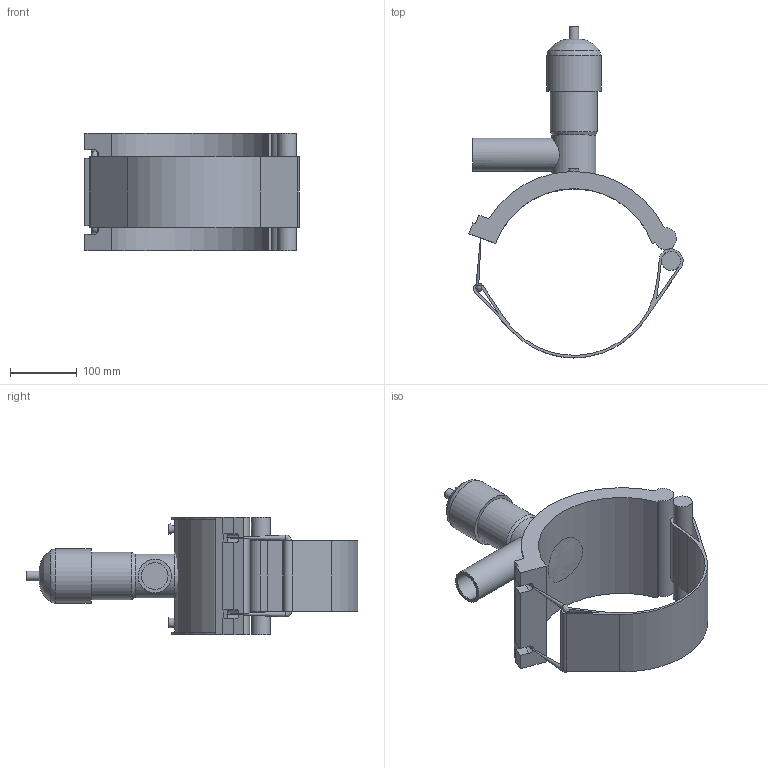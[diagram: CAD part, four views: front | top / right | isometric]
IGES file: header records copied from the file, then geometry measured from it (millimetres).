
Global section: file name: 495404250050.ipt; native system: Autodesk Inventor 2015; preprocessor: unknown; author: KIM; date: 20171106.094324; units: millimetre
Bounding box: 321.09 x 497.75 x 176 mm (x, y, z)
Volume: 2794928.6 mm3; surface area: 409473.4 mm2
Topology: 2 solids, 4 shells, 81 faces, 196 edges, 130 vertices
Faces by surface type: plane 45, cylinder 20, revolution 13, cone 3
Full cylindrical faces by diameter (mm): 4 x2, 8.5 x2, 14.64 x1, 28.462 x1, 50 x1, 65.88 x1, 70.76 x1, 73.2 x1, 81.333 x1
